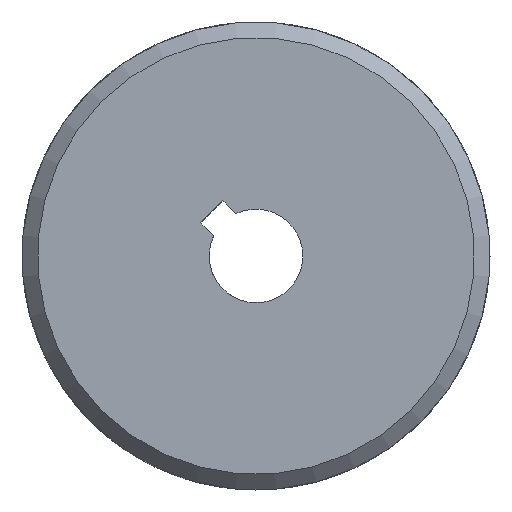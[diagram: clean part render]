
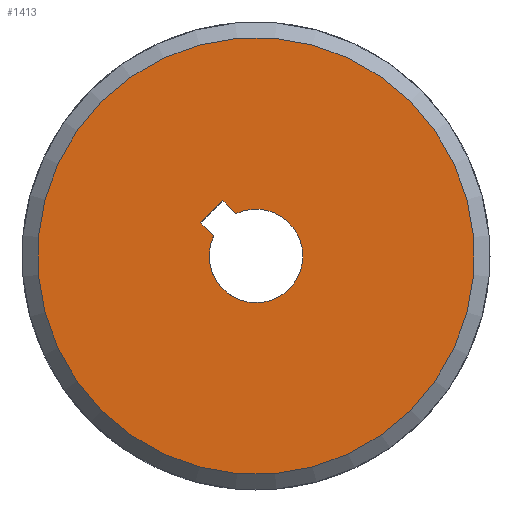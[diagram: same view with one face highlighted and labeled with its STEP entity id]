
A CAD part, left-side view. The second image highlights one B-rep face of the part: STEP entity #1413.
In plain terms, the highlighted planar face has unit normal (-1, 0, 0) as drawn and (0, 0, -1) by its records, which use the part's own axes.
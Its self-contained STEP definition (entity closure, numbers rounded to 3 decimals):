
#97=LINE('',#2928,#168);
#100=LINE('',#2935,#171);
#106=LINE('',#2950,#177);
#168=VECTOR('',#1890,10.);
#171=VECTOR('',#1897,10.);
#177=VECTOR('',#1909,10.);
#237=FACE_BOUND('',#391,.T.);
#300=FACE_OUTER_BOUND('',#390,.T.);
#390=EDGE_LOOP('',(#1208));
#391=EDGE_LOOP('',(#1209,#1210,#1211,#1212));
#523=CIRCLE('',#1615,3.);
#524=CIRCLE('',#1617,14.);
#644=VERTEX_POINT('',#2925);
#645=VERTEX_POINT('',#2927);
#647=VERTEX_POINT('',#2933);
#653=VERTEX_POINT('',#2948);
#659=VERTEX_POINT('',#3003);
#829=EDGE_CURVE('',#645,#644,#97,.T.);
#833=EDGE_CURVE('',#644,#647,#100,.T.);
#840=EDGE_CURVE('',#647,#653,#106,.T.);
#849=EDGE_CURVE('',#653,#645,#523,.T.);
#852=EDGE_CURVE('',#659,#659,#524,.T.);
#1208=ORIENTED_EDGE('',*,*,#852,.F.);
#1209=ORIENTED_EDGE('',*,*,#829,.T.);
#1210=ORIENTED_EDGE('',*,*,#833,.T.);
#1211=ORIENTED_EDGE('',*,*,#840,.T.);
#1212=ORIENTED_EDGE('',*,*,#849,.T.);
#1347=PLANE('',#1616);
#1413=ADVANCED_FACE('',(#300,#237),#1347,.T.);
#1615=AXIS2_PLACEMENT_3D('',#2982,#1924,#1925);
#1616=AXIS2_PLACEMENT_3D('',#3002,#1926,#1927);
#1617=AXIS2_PLACEMENT_3D('',#3004,#1928,#1929);
#1890=DIRECTION('',(-1.,0.,0.));
#1897=DIRECTION('',(0.,-1.,0.));
#1909=DIRECTION('',(1.,0.,0.));
#1924=DIRECTION('center_axis',(0.,0.,
1.));
#1925=DIRECTION('ref_axis',(1.,0.,0.));
#1926=DIRECTION('center_axis',(0.,0.,
-1.));
#1927=DIRECTION('ref_axis',(0.,-1.,0.));
#1928=DIRECTION('center_axis',(0.,0.,
1.));
#1929=DIRECTION('ref_axis',(0.,1.,0.));
#2925=CARTESIAN_POINT('',(-4.,1.,-11.));
#2927=CARTESIAN_POINT('',(-2.828,1.,-11.));
#2928=CARTESIAN_POINT('',(-1.414,1.,-11.));
#2933=CARTESIAN_POINT('',(-4.,-1.,-11.));
#2935=CARTESIAN_POINT('',(-4.,0.5,-11.));
#2948=CARTESIAN_POINT('',(-2.828,-1.,-11.));
#2950=CARTESIAN_POINT('',(-2.,-1.,-11.));
#2982=CARTESIAN_POINT('Origin',(0.,0.,
-11.));
#3002=CARTESIAN_POINT('Origin',(0.,0.,
-11.));
#3003=CARTESIAN_POINT('',(0.,-14.,-11.));
#3004=CARTESIAN_POINT('Origin',(0.,0.,
-11.));
